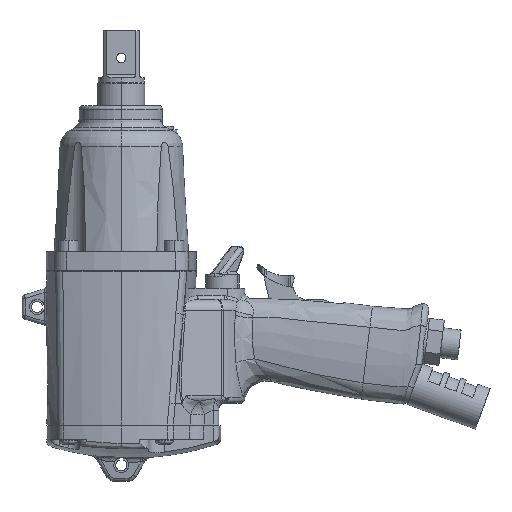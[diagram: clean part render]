
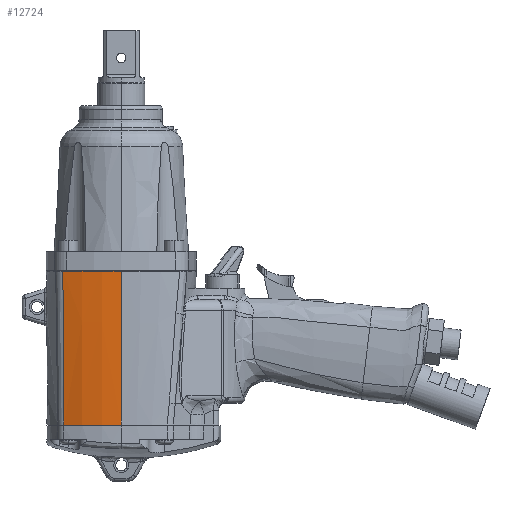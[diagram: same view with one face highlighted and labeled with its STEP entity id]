
A CAD part, left-side view. The second image highlights one B-rep face of the part: STEP entity #12724.
In plain terms, the highlighted free-form (B-spline) face has degree [3, 3] with [4, 8] control points.
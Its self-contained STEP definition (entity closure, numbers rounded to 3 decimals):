
#12639 = VERTEX_POINT ( 'NONE', #17320 ) ;
#12643 = EDGE_CURVE ( 'NONE', #12639, #12667, #17316, .T. ) ;
#12667 = VERTEX_POINT ( 'NONE', #17387 ) ;
#12722 = EDGE_CURVE ( 'NONE', #12639, #13732, #17722, .T. ) ;
#12724 = ADVANCED_FACE ( 'NONE', ( #17714 ), #17687, .T. ) ;
#12725 = EDGE_LOOP ( 'NONE', ( #12726, #12727, #12728, #12729 ) ) ;
#12726 = ORIENTED_EDGE ( 'NONE', *, *, #12643, .F. ) ;
#12727 = ORIENTED_EDGE ( 'NONE', *, *, #12722, .T. ) ;
#12728 = ORIENTED_EDGE ( 'NONE', *, *, #13731, .T. ) ;
#12729 = ORIENTED_EDGE ( 'NONE', *, *, #12730, .F. ) ;
#12730 = EDGE_CURVE ( 'NONE', #12667, #13724, #17688, .T. ) ;
#13724 = VERTEX_POINT ( 'NONE', #40666 ) ;
#13731 = EDGE_CURVE ( 'NONE', #13732, #13724, #40652, .T. ) ;
#13732 = VERTEX_POINT ( 'NONE', #40648 ) ;
#17316 = CIRCLE ( 'NONE', #17449, 100. ) ;
#17320 = CARTESIAN_POINT ( 'NONE',  ( -35.014, 31.184, 0. ) ) ;
#17387 = CARTESIAN_POINT ( 'NONE',  ( -40., 0., 0. ) ) ;
#17445 = DIRECTION ( 'NONE',  ( 1., 0., 0. ) ) ;
#17446 = DIRECTION ( 'NONE',  ( 0., 0., 1. ) ) ;
#17448 = CARTESIAN_POINT ( 'NONE',  ( 60., 0., 0. ) ) ;
#17449 = AXIS2_PLACEMENT_3D ( 'NONE', #17448, #17446, #17445 ) ;
#17687 =( BOUNDED_SURFACE ( )  B_SPLINE_SURFACE ( 3, 3, ( 
 ( #17797, #17796, #17795, #17794, #17793, #17791, #17789, #17786 ),
 ( #17784, #17783, #17782, #17781, #17779, #17776, #17774, #17768 ),
 ( #17766, #17765, #17764, #17763, #17760, #17758, #17756, #17754 ),
 ( #17753, #17752, #17750, #17747, #17745, #17743, #17742, #17741 ) ),
 .UNSPECIFIED., .F., .F., .T. ) 
 B_SPLINE_SURFACE_WITH_KNOTS ( ( 4, 4 ),
 ( 4, 1, 1, 1, 1, 4 ),
 ( 0.143, 0.286 ),
 ( 0., 0.167, 0.333, 0.667, 0.833, 1. ),
 .UNSPECIFIED. ) 
 GEOMETRIC_REPRESENTATION_ITEM ( )  RATIONAL_B_SPLINE_SURFACE ( (
 ( 1., 1., 1., 1., 1., 1., 1., 1.),
 ( 0.992, 0.992, 0.991, 0.99, 0.989, 0.988, 0.987, 0.987),
 ( 0.992, 0.992, 0.991, 0.99, 0.989, 0.988, 0.987, 0.987),
 ( 1., 1., 1., 1., 1., 1., 1., 1.) ) ) 
 REPRESENTATION_ITEM ( '' )  SURFACE ( )  );
#17688 = LINE ( 'NONE', #17695, #17693 ) ;
#17693 = VECTOR ( 'NONE', #17697, 1000. ) ;
#17695 = CARTESIAN_POINT ( 'NONE',  ( -40., 0., -41. ) ) ;
#17697 = DIRECTION ( 'NONE',  ( 0., 0., -1. ) ) ;
#17714 = FACE_OUTER_BOUND ( 'NONE', #12725, .T. ) ;
#17716 = DIRECTION ( 'NONE',  ( 0.014, -0.006, -1. ) ) ;
#17718 = VECTOR ( 'NONE', #17716, 1000. ) ;
#17720 = CARTESIAN_POINT ( 'NONE',  ( -34.454, 30.918, -41. ) ) ;
#17722 = LINE ( 'NONE', #17720, #17718 ) ;
#17741 = CARTESIAN_POINT ( 'NONE',  ( -33.895, 30.652, -82. ) ) ;
#17742 = CARTESIAN_POINT ( 'NONE',  ( -33.957, 30.681, -77.444 ) ) ;
#17743 = CARTESIAN_POINT ( 'NONE',  ( -34.081, 30.74, -68.333 ) ) ;
#17745 = CARTESIAN_POINT ( 'NONE',  ( -34.33, 30.859, -50.111 ) ) ;
#17747 = CARTESIAN_POINT ( 'NONE',  ( -34.579, 30.977, -31.889 ) ) ;
#17750 = CARTESIAN_POINT ( 'NONE',  ( -34.827, 31.095, -13.667 ) ) ;
#17752 = CARTESIAN_POINT ( 'NONE',  ( -34.951, 31.154, -4.556 ) ) ;
#17753 = CARTESIAN_POINT ( 'NONE',  ( -35.014, 31.184, 0. ) ) ;
#17754 = CARTESIAN_POINT ( 'NONE',  ( -37.939, 20.904, -82. ) ) ;
#17756 = CARTESIAN_POINT ( 'NONE',  ( -37.953, 20.935, -77.106 ) ) ;
#17758 = CARTESIAN_POINT ( 'NONE',  ( -37.983, 20.998, -67.326 ) ) ;
#17760 = CARTESIAN_POINT ( 'NONE',  ( -38.063, 21.059, -48.711 ) ) ;
#17763 = CARTESIAN_POINT ( 'NONE',  ( -38.152, 21.095, -30.547 ) ) ;
#17764 = CARTESIAN_POINT ( 'NONE',  ( -38.247, 21.118, -12.756 ) ) ;
#17765 = CARTESIAN_POINT ( 'NONE',  ( -38.298, 21.104, -4.25 ) ) ;
#17766 = CARTESIAN_POINT ( 'NONE',  ( -38.324, 21.098, 0. ) ) ;
#17768 = CARTESIAN_POINT ( 'NONE',  ( -40., 10.553, -82. ) ) ;
#17774 = CARTESIAN_POINT ( 'NONE',  ( -40., 10.557, -77.414 ) ) ;
#17776 = CARTESIAN_POINT ( 'NONE',  ( -40., 10.564, -68.247 ) ) ;
#17779 = CARTESIAN_POINT ( 'NONE',  ( -40., 10.577, -49.993 ) ) ;
#17781 = CARTESIAN_POINT ( 'NONE',  ( -40., 10.591, -31.776 ) ) ;
#17782 = CARTESIAN_POINT ( 'NONE',  ( -40., 10.605, -13.591 ) ) ;
#17783 = CARTESIAN_POINT ( 'NONE',  ( -40., 10.612, -4.528 ) ) ;
#17784 = CARTESIAN_POINT ( 'NONE',  ( -40., 10.615, 0. ) ) ;
#17786 = CARTESIAN_POINT ( 'NONE',  ( -40., 0., -82. ) ) ;
#17789 = CARTESIAN_POINT ( 'NONE',  ( -40., 0., -77.444 ) ) ;
#17791 = CARTESIAN_POINT ( 'NONE',  ( -40., 0., -68.333 ) ) ;
#17793 = CARTESIAN_POINT ( 'NONE',  ( -40., 0., -50.111 ) ) ;
#17794 = CARTESIAN_POINT ( 'NONE',  ( -40., 0., -31.889 ) ) ;
#17795 = CARTESIAN_POINT ( 'NONE',  ( -40., 0., -13.667 ) ) ;
#17796 = CARTESIAN_POINT ( 'NONE',  ( -40., 0., -4.556 ) ) ;
#17797 = CARTESIAN_POINT ( 'NONE',  ( -40., 0., 0. ) ) ;
#40648 = CARTESIAN_POINT ( 'NONE',  ( -33.895, 30.652, -82. ) ) ;
#40649 = DIRECTION ( 'NONE',  ( 1., 0., 0. ) ) ;
#40650 = DIRECTION ( 'NONE',  ( 0., 0., 1. ) ) ;
#40651 = AXIS2_PLACEMENT_3D ( 'NONE', #40657, #40650, #40649 ) ;
#40652 = CIRCLE ( 'NONE', #40651, 80. ) ;
#40657 = CARTESIAN_POINT ( 'NONE',  ( 40., 0., -82. ) ) ;
#40666 = CARTESIAN_POINT ( 'NONE',  ( -40., 0., -82. ) ) ;
